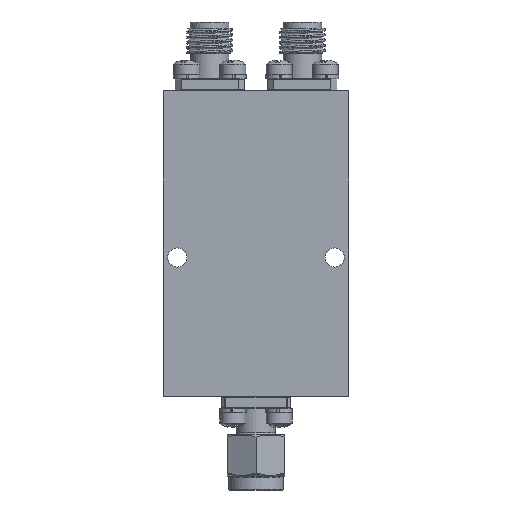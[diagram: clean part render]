
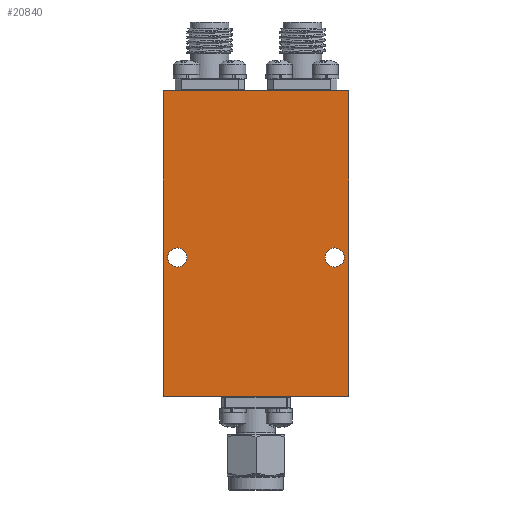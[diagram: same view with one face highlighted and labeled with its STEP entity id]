
A CAD part, front view. The second image highlights one B-rep face of the part: STEP entity #20840.
In plain terms, the highlighted planar face has unit normal (0, -1, 0).
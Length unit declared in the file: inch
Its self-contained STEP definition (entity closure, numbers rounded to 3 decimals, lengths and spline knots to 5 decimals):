
#929 = CARTESIAN_POINT ( 'NONE',  ( 38.86235, 39.91055, 38.81246 ) ) ;
#1558 = CARTESIAN_POINT ( 'NONE',  ( 38.86235, 39.91055, 38.81246 ) ) ;
#1857 = DIRECTION ( 'NONE',  ( 1., 0., 0. ) ) ;
#2667 = CARTESIAN_POINT ( 'NONE',  ( 38.78735, 39.91055, 39.56246 ) ) ;
#4215 = LINE ( 'NONE', #36653, #38172 ) ;
#4681 = EDGE_CURVE ( 'NONE', #42839, #42839, #50128, .T. ) ;
#4916 = EDGE_CURVE ( 'NONE', #14767, #31126, #26346, .T. ) ;
#5103 = DIRECTION ( 'NONE',  ( 0., 0., 1. ) ) ;
#5413 = DIRECTION ( 'NONE',  ( 0., 0., 1. ) ) ;
#5456 = AXIS2_PLACEMENT_3D ( 'NONE', #2667, #31800, #36164 ) ;
#5633 = CARTESIAN_POINT ( 'NONE',  ( 37.86235, 39.91055, 38.81246 ) ) ;
#6566 = AXIS2_PLACEMENT_3D ( 'NONE', #19284, #39740, #52828 ) ;
#7887 = PLANE ( 'NONE',  #52857 ) ;
#10257 = DIRECTION ( 'NONE',  ( 0., 0., -1. ) ) ;
#11126 = LINE ( 'NONE', #26950, #27157 ) ;
#11992 = FACE_BOUND ( 'NONE', #45152, .T. ) ;
#12500 = FACE_OUTER_BOUND ( 'NONE', #15062, .T. ) ;
#14767 = VERTEX_POINT ( 'NONE', #53210 ) ;
#15062 = EDGE_LOOP ( 'NONE', ( #15965, #41522, #41742, #21042 ) ) ;
#15965 = ORIENTED_EDGE ( 'NONE', *, *, #4916, .F. ) ;
#19284 = CARTESIAN_POINT ( 'NONE',  ( 37.93735, 39.91055, 39.56246 ) ) ;
#19328 = CARTESIAN_POINT ( 'NONE',  ( 37.86235, 39.91055, 40.46246 ) ) ;
#20840 = ADVANCED_FACE ( 'NONE', ( #11992, #45236, #12500 ), #7887, .F. ) ;
#21042 = ORIENTED_EDGE ( 'NONE', *, *, #45856, .F. ) ;
#26346 = LINE ( 'NONE', #5633, #39629 ) ;
#26950 = CARTESIAN_POINT ( 'NONE',  ( 37.86235, 39.91055, 40.46246 ) ) ;
#27157 = VECTOR ( 'NONE', #1857, 39.37008 ) ;
#28517 = DIRECTION ( 'NONE',  ( -1., 0., 0. ) ) ;
#29770 = CARTESIAN_POINT ( 'NONE',  ( 37.93735, 39.91055, 39.61446 ) ) ;
#29866 = ORIENTED_EDGE ( 'NONE', *, *, #4681, .T. ) ;
#31126 = VERTEX_POINT ( 'NONE', #19328 ) ;
#31800 = DIRECTION ( 'NONE',  ( 0., 1., 0. ) ) ;
#32471 = VERTEX_POINT ( 'NONE', #929 ) ;
#34461 = VERTEX_POINT ( 'NONE', #51400 ) ;
#34637 = VERTEX_POINT ( 'NONE', #40572 ) ;
#36164 = DIRECTION ( 'NONE',  ( 0., 0., 1. ) ) ;
#36653 = CARTESIAN_POINT ( 'NONE',  ( 37.86235, 39.91055, 38.81246 ) ) ;
#38099 = DIRECTION ( 'NONE',  ( 0., 1., 0. ) ) ;
#38172 = VECTOR ( 'NONE', #28517, 39.37008 ) ;
#39629 = VECTOR ( 'NONE', #5103, 39.37008 ) ;
#39740 = DIRECTION ( 'NONE',  ( 0., 1., 0. ) ) ;
#40378 = VECTOR ( 'NONE', #10257, 39.37008 ) ;
#40572 = CARTESIAN_POINT ( 'NONE',  ( 38.86235, 39.91055, 40.46246 ) ) ;
#41522 = ORIENTED_EDGE ( 'NONE', *, *, #53606, .F. ) ;
#41742 = ORIENTED_EDGE ( 'NONE', *, *, #48979, .F. ) ;
#42839 = VERTEX_POINT ( 'NONE', #29770 ) ;
#44096 = ORIENTED_EDGE ( 'NONE', *, *, #44982, .T. ) ;
#44982 = EDGE_CURVE ( 'NONE', #34461, #34461, #52518, .T. ) ;
#45152 = EDGE_LOOP ( 'NONE', ( #29866 ) ) ;
#45236 = FACE_BOUND ( 'NONE', #48065, .T. ) ;
#45856 = EDGE_CURVE ( 'NONE', #31126, #34637, #11126, .T. ) ;
#47646 = LINE ( 'NONE', #1558, #40378 ) ;
#48065 = EDGE_LOOP ( 'NONE', ( #44096 ) ) ;
#48979 = EDGE_CURVE ( 'NONE', #34637, #32471, #47646, .T. ) ;
#50128 = CIRCLE ( 'NONE', #6566, 0.052 ) ;
#51400 = CARTESIAN_POINT ( 'NONE',  ( 38.78735, 39.91055, 39.61446 ) ) ;
#52518 = CIRCLE ( 'NONE', #5456, 0.052 ) ;
#52828 = DIRECTION ( 'NONE',  ( 0., 0., 1. ) ) ;
#52857 = AXIS2_PLACEMENT_3D ( 'NONE', #52880, #38099, #5413 ) ;
#52880 = CARTESIAN_POINT ( 'NONE',  ( 38.36235, 39.91055, 39.63746 ) ) ;
#53210 = CARTESIAN_POINT ( 'NONE',  ( 37.86235, 39.91055, 38.81246 ) ) ;
#53606 = EDGE_CURVE ( 'NONE', #32471, #14767, #4215, .T. ) ;
